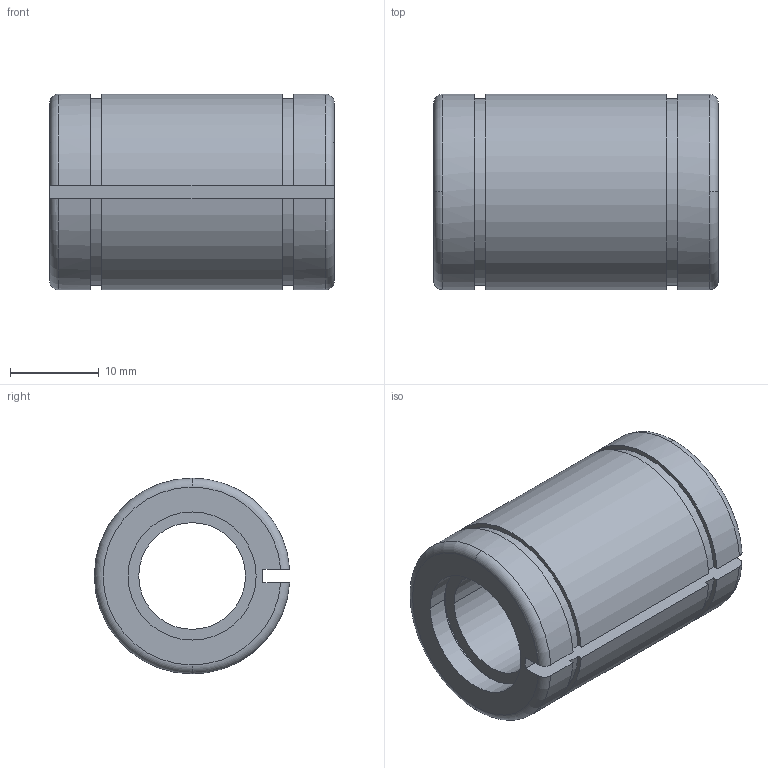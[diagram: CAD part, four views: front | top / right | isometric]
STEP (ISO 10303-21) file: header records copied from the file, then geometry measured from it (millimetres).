
FILE_DESCRIPTION( ( '' ), '1' );
FILE_NAME( '//partserver001.servicenet/client_exchange/iodir/jobs/output/wkb20114322_no1/STEP/ubm_12aj_ww_2_03.stp', '2009-11-12T13:07:53', ( '' ), ( '' ), ' ', ' ', ' ' );
FILE_SCHEMA( ( 'CONFIG_CONTROL_DESIGN' ) );
Length unit declared in the file: millimetre
Products named in the file (1): 1
Bounding box: 32 x 21.97 x 22 mm (x, y, z)
Volume: 8018.6 mm3; surface area: 4284.3 mm2
Topology: 1 solids, 1 shells, 39 faces, 99 edges, 66 vertices
Faces by surface type: cylinder 20, plane 13, torus 6
Entity records: 1315 total; most frequent: CARTESIAN_POINT 273, DIRECTION 229, ORIENTED_EDGE 198, EDGE_CURVE 99, AXIS2_PLACEMENT_3D 94, VERTEX_POINT 66, CIRCLE 54, EDGE_LOOP 45
